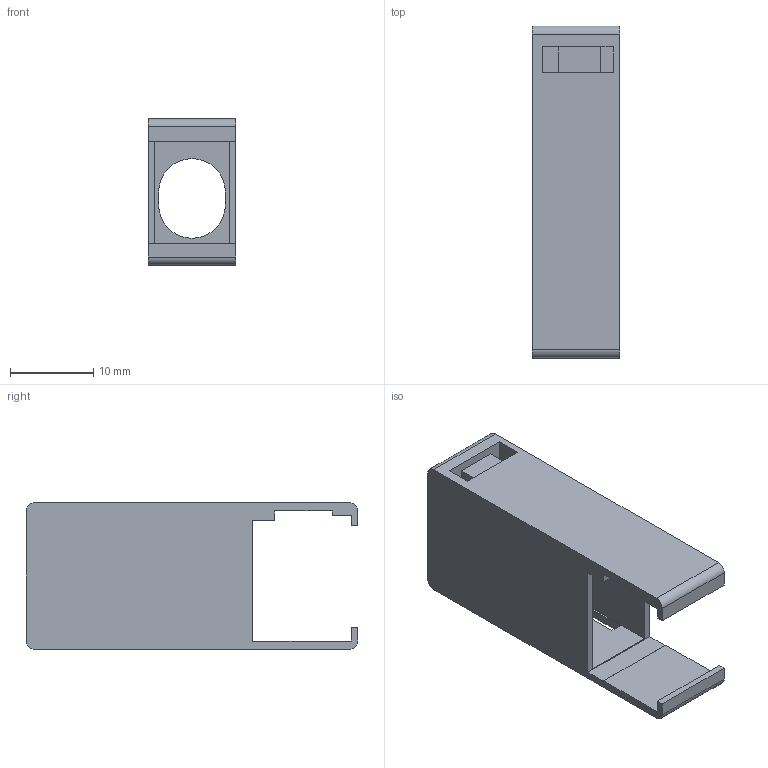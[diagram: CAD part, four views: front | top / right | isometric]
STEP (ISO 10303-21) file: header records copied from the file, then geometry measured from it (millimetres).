
FILE_DESCRIPTION((''),'2;1');
FILE_NAME('B2L_3_5-AH_6_SW_1781560000','2016-03-14T',('dkendric'),(''),'PRO/ENGINEER BY PARAMETRIC TECHNOLOGY CORPORATION, 2015280','PRO/ENGINEER BY PARAMETRIC TECHNOLOGY CORPORATION, 2015280','');
FILE_SCHEMA(('CONFIG_CONTROL_DESIGN'));
Length unit declared in the file: millimetre
Products named in the file (1): B2L_3_5-AH_6_SW_1781560000
Bounding box: 10.5 x 39.8 x 17.6 mm (x, y, z)
Volume: 1658.5 mm3; surface area: 3788.3 mm2
Topology: 1 solids, 1 shells, 53 faces, 165 edges, 111 vertices
Faces by surface type: plane 47, cylinder 6
Entity records: 1876 total; most frequent: ORIENTED_EDGE 330, CARTESIAN_POINT 329, DIRECTION 286, EDGE_CURVE 165, VECTOR 150, LINE 150, VERTEX_POINT 111, AXIS2_PLACEMENT_3D 68
